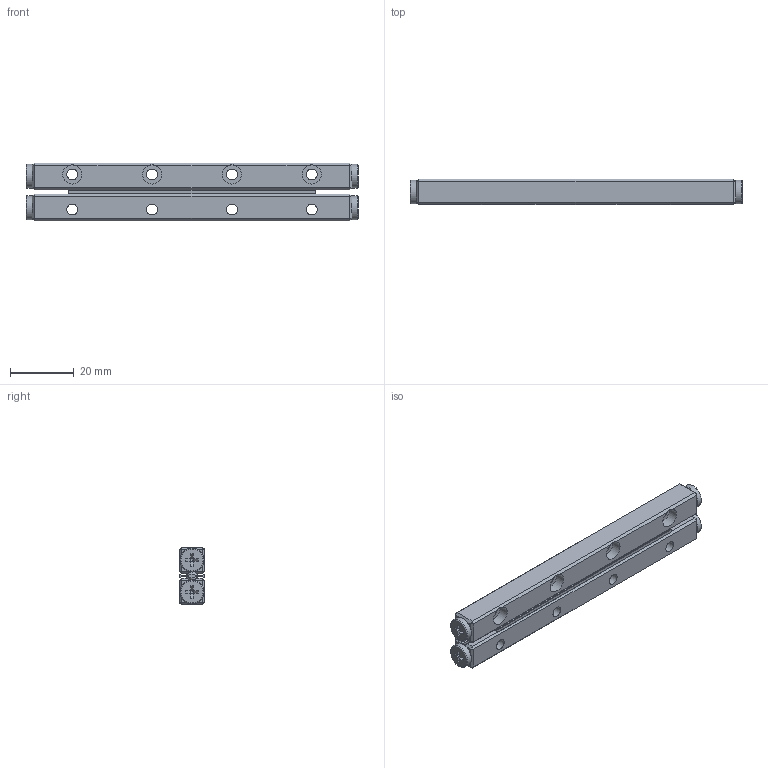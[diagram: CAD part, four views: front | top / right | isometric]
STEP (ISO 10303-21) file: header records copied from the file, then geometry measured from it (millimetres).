
FILE_DESCRIPTION (( 'STEP AP203' ), '1' );
FILE_NAME ('組合件-軌道組-GRV03-0100H-18Z-模糊化軌道組.STEP', '2022-12-05T03:58:50', ( '' ), ( '' ), 'SwSTEP 2.0', 'SolidWorks 2019', '' );
FILE_SCHEMA (( 'CONFIG_CONTROL_DESIGN' ));
Length unit declared in the file: millimetre
Products named in the file (1): 組合件-軌道組-GRV03-0100H-18Z-模糊化軌道組
Bounding box: 104 x 8 x 18 mm (x, y, z)
Volume: 12412.1 mm3; surface area: 9778.9 mm2
Topology: 3 solids, 31 shells, 610 faces, 1602 edges, 1010 vertices
Faces by surface type: plane 384, cylinder 90, cone 84, torus 52
Full cylindrical faces by diameter (mm): 2 x4, 2.55 x28, 3.4 x8, 6 x8, 7.5 x4
Entity records: 17669 total; most frequent: CARTESIAN_POINT 4567, ORIENTED_EDGE 2808, DIRECTION 2494, EDGE_CURVE 1404, AXIS2_PLACEMENT_3D 939, VERTEX_POINT 932, EDGE_LOOP 750, FACE_OUTER_BOUND 678
